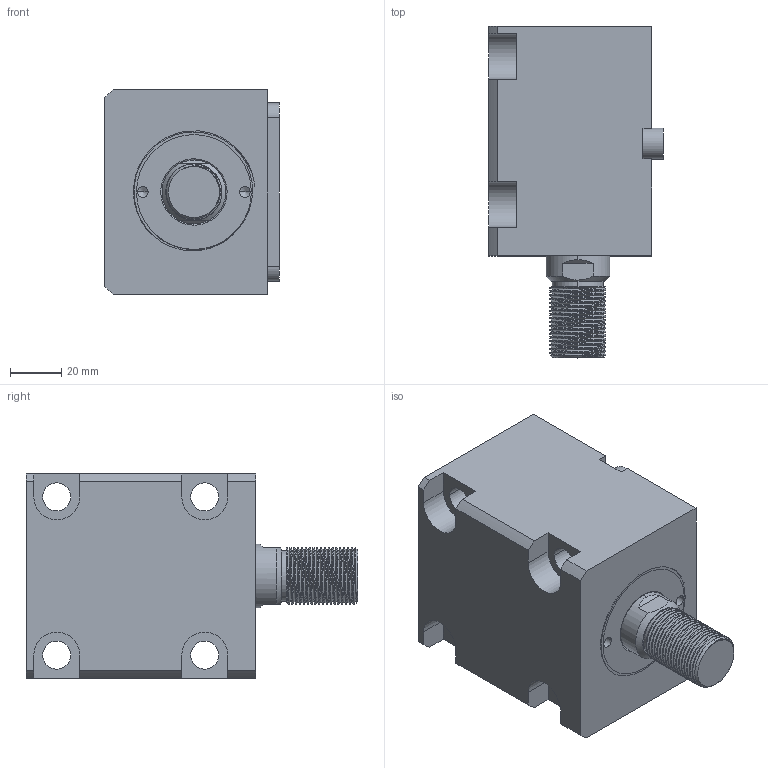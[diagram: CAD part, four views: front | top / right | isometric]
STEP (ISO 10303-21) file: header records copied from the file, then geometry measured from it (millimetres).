
FILE_DESCRIPTION (( 'STEP AP214' ), '1' );
FILE_NAME ('chtb-lam40x35w_asm.STEP', '2018-05-30T02:56:02', ( 'Windows' ), ( 'Microsoft' ), 'SwSTEP 2.0', 'SolidWorks 2015', '' );
FILE_SCHEMA (( 'AUTOMOTIVE_DESIGN' ));
Length unit declared in the file: millimetre
Products named in the file (5): CHTB-SD40X35WHSG; CHTB-SD40QG; CHTB-LAM40X35NBT; CHTB-LA40PJ; chtb-lam40x35w_asm
Assembly tree (4 placements, depth 2):
  chtb-lam40x35w_asm
    CHTB-LA40PJ
    CHTB-LAM40X35NBT
    CHTB-SD40QG
    CHTB-SD40X35WHSG
Bounding box: 68.5 x 130 x 80 mm (x, y, z)
Volume: 415022.8 mm3; surface area: 83419.8 mm2
Topology: 4 solids, 5 shells, 199 faces, 547 edges, 365 vertices
Faces by surface type: cylinder 111, plane 50, bspline 16, torus 12, cone 10
Entity records: 13609 total; most frequent: CARTESIAN_POINT 8674, ORIENTED_EDGE 1082, DIRECTION 894, EDGE_CURVE 541, VERTEX_POINT 365, AXIS2_PLACEMENT_3D 349, EDGE_LOOP 226, FACE_OUTER_BOUND 199
